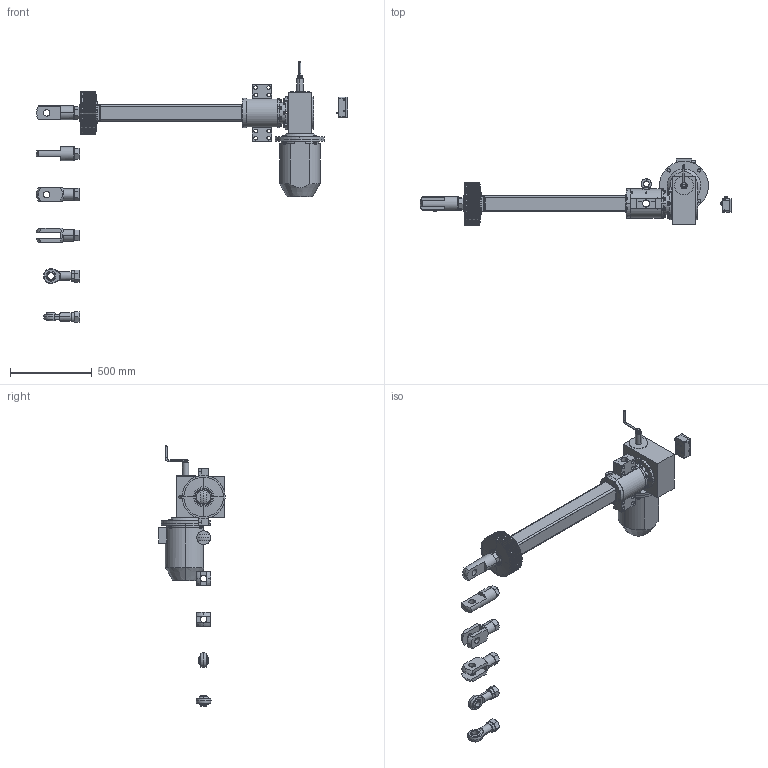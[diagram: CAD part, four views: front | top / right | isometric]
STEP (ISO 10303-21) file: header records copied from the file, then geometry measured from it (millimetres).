
FILE_DESCRIPTION (( 'STEP AP203' ), '1' );
FILE_NAME ('Ì4 6 700.STEP', '2016-12-22T08:29:37', ( '' ), ( '' ), 'SwSTEP 2.0', 'SolidWorks 2012', '' );
FILE_SCHEMA (( 'CONFIG_CONTROL_DESIGN' ));
Products named in the file (9): ﾌ4 6 700; Ãîôð Ñ4_•®¤600; 迕 6; 苂 6; 迍 6; ﾁﾑﾏ; Ñ4 6 ïåðåä áàçà; ﾒ矜 6_700; ﾌ4 6 矜鈞
Assembly tree (11 placements, depth 2):
  ﾌ4 6 700
    ﾌ4 6 矜鈞
    ﾒ矜 6_700
    Ñ4 6 ïåðåä áàçà
    ﾁﾑﾏ
    迍 6  x2
    苂 6  x2
    迕 6  x2
    Ãîôð Ñ4_•®¤600
Bounding box: 1908 x 406 x 1596 mm (x, y, z)
Volume: 1302577.2 mm3; surface area: 6144779.2 mm2
Topology: 1 solids, 211 shells, 1899 faces, 5158 edges, 3490 vertices
Faces by surface type: plane 756, cylinder 603, cone 404, sphere 64, torus 60, bspline 12
Entity records: 60711 total; most frequent: CARTESIAN_POINT 14523, DIRECTION 10102, ORIENTED_EDGE 8162, EDGE_CURVE 4800, AXIS2_PLACEMENT_3D 4049, VERTEX_POINT 3272, CIRCLE 2253, EDGE_LOOP 2120
